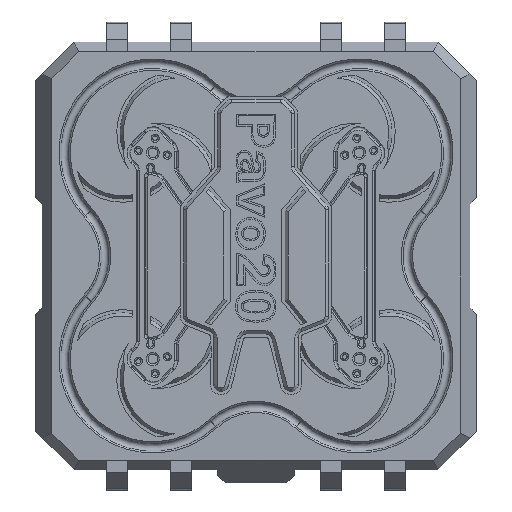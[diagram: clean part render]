
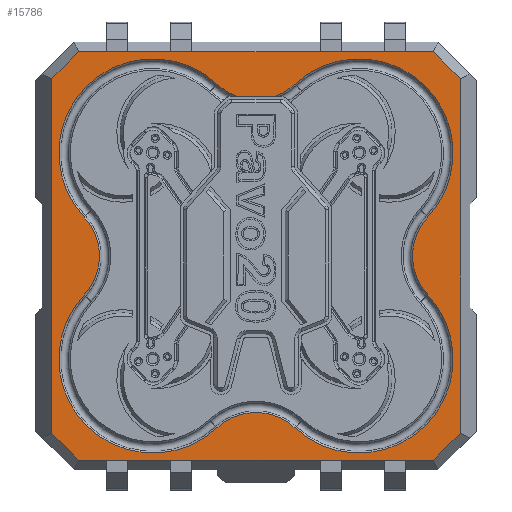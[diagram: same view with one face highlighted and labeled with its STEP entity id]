
A CAD part, top view. The second image highlights one B-rep face of the part: STEP entity #15786.
In plain terms, the highlighted planar face has unit normal (0, 0, 1).
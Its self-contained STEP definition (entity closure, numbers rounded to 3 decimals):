
#325=FACE_BOUND('',#3436,.T.);
#1630=CIRCLE('',#17082,17.699);
#1631=CIRCLE('',#17083,29.);
#1632=CIRCLE('',#17084,17.699);
#1633=CIRCLE('',#17085,29.);
#1634=CIRCLE('',#17086,17.699);
#1635=CIRCLE('',#17087,29.);
#1636=CIRCLE('',#17088,17.699);
#1637=CIRCLE('',#17089,29.);
#1638=CIRCLE('',#17090,17.699);
#2477=FACE_OUTER_BOUND('',#3435,.T.);
#3435=EDGE_LOOP('',(#13756,#13757,#13758,#13759,#13760,#13761,#13762,#13763));
#3436=EDGE_LOOP('',(#13764,#13765,#13766,#13767,#13768,#13769,#13770,#13771,
#13772,#13773));
#4625=LINE('',#27973,#5889);
#4659=LINE('',#28122,#5923);
#4660=LINE('',#28124,#5924);
#4661=LINE('',#28126,#5925);
#4662=LINE('',#28128,#5926);
#4663=LINE('',#28130,#5927);
#4664=LINE('',#28132,#5928);
#4665=LINE('',#28134,#5929);
#4666=LINE('',#28135,#5930);
#5889=VECTOR('',#20457,10.);
#5923=VECTOR('',#20569,10.);
#5924=VECTOR('',#20570,10.);
#5925=VECTOR('',#20571,10.);
#5926=VECTOR('',#20572,10.);
#5927=VECTOR('',#20573,10.);
#5928=VECTOR('',#20574,10.);
#5929=VECTOR('',#20575,10.);
#5930=VECTOR('',#20576,10.);
#7446=VERTEX_POINT('',#27968);
#7447=VERTEX_POINT('',#27972);
#7459=VERTEX_POINT('',#28120);
#7460=VERTEX_POINT('',#28121);
#7461=VERTEX_POINT('',#28123);
#7462=VERTEX_POINT('',#28125);
#7463=VERTEX_POINT('',#28127);
#7464=VERTEX_POINT('',#28129);
#7465=VERTEX_POINT('',#28131);
#7466=VERTEX_POINT('',#28133);
#7467=VERTEX_POINT('',#28136);
#7468=VERTEX_POINT('',#28138);
#7469=VERTEX_POINT('',#28140);
#7470=VERTEX_POINT('',#28142);
#7471=VERTEX_POINT('',#28144);
#7472=VERTEX_POINT('',#28146);
#7473=VERTEX_POINT('',#28148);
#7474=VERTEX_POINT('',#28150);
#9600=EDGE_CURVE('',#7447,#7446,#4625,.T.);
#9645=EDGE_CURVE('',#7459,#7460,#4659,.T.);
#9646=EDGE_CURVE('',#7461,#7459,#4660,.T.);
#9647=EDGE_CURVE('',#7462,#7461,#4661,.T.);
#9648=EDGE_CURVE('',#7463,#7462,#4662,.T.);
#9649=EDGE_CURVE('',#7464,#7463,#4663,.T.);
#9650=EDGE_CURVE('',#7465,#7464,#4664,.T.);
#9651=EDGE_CURVE('',#7466,#7465,#4665,.T.);
#9652=EDGE_CURVE('',#7460,#7466,#4666,.T.);
#9653=EDGE_CURVE('',#7467,#7446,#1630,.T.);
#9654=EDGE_CURVE('',#7468,#7467,#1631,.T.);
#9655=EDGE_CURVE('',#7469,#7468,#1632,.T.);
#9656=EDGE_CURVE('',#7470,#7469,#1633,.T.);
#9657=EDGE_CURVE('',#7471,#7470,#1634,.T.);
#9658=EDGE_CURVE('',#7472,#7471,#1635,.T.);
#9659=EDGE_CURVE('',#7473,#7472,#1636,.T.);
#9660=EDGE_CURVE('',#7474,#7473,#1637,.T.);
#9661=EDGE_CURVE('',#7447,#7474,#1638,.T.);
#13756=ORIENTED_EDGE('',*,*,#9645,.F.);
#13757=ORIENTED_EDGE('',*,*,#9646,.F.);
#13758=ORIENTED_EDGE('',*,*,#9647,.F.);
#13759=ORIENTED_EDGE('',*,*,#9648,.F.);
#13760=ORIENTED_EDGE('',*,*,#9649,.F.);
#13761=ORIENTED_EDGE('',*,*,#9650,.F.);
#13762=ORIENTED_EDGE('',*,*,#9651,.F.);
#13763=ORIENTED_EDGE('',*,*,#9652,.F.);
#13764=ORIENTED_EDGE('',*,*,#9600,.T.);
#13765=ORIENTED_EDGE('',*,*,#9653,.F.);
#13766=ORIENTED_EDGE('',*,*,#9654,.F.);
#13767=ORIENTED_EDGE('',*,*,#9655,.F.);
#13768=ORIENTED_EDGE('',*,*,#9656,.F.);
#13769=ORIENTED_EDGE('',*,*,#9657,.F.);
#13770=ORIENTED_EDGE('',*,*,#9658,.F.);
#13771=ORIENTED_EDGE('',*,*,#9659,.F.);
#13772=ORIENTED_EDGE('',*,*,#9660,.F.);
#13773=ORIENTED_EDGE('',*,*,#9661,.F.);
#14934=PLANE('',#17081);
#15786=ADVANCED_FACE('',(#2477,#325),#14934,.T.);
#17081=AXIS2_PLACEMENT_3D('',#28119,#20567,#20568);
#17082=AXIS2_PLACEMENT_3D('',#28137,#20577,#20578);
#17083=AXIS2_PLACEMENT_3D('',#28139,#20579,#20580);
#17084=AXIS2_PLACEMENT_3D('',#28141,#20581,#20582);
#17085=AXIS2_PLACEMENT_3D('',#28143,#20583,#20584);
#17086=AXIS2_PLACEMENT_3D('',#28145,#20585,#20586);
#17087=AXIS2_PLACEMENT_3D('',#28147,#20587,#20588);
#17088=AXIS2_PLACEMENT_3D('',#28149,#20589,#20590);
#17089=AXIS2_PLACEMENT_3D('',#28151,#20591,#20592);
#17090=AXIS2_PLACEMENT_3D('',#28152,#20593,#20594);
#20457=DIRECTION('',(1.,0.,0.));
#20567=DIRECTION('center_axis',(0.,0.,1.));
#20568=DIRECTION('ref_axis',(1.,0.,0.));
#20569=DIRECTION('',(0.707,0.707,0.));
#20570=DIRECTION('',(0.,1.,0.));
#20571=DIRECTION('',(-0.707,0.707,0.));
#20572=DIRECTION('',(-1.,0.,0.));
#20573=DIRECTION('',(-0.707,-0.707,0.));
#20574=DIRECTION('',(0.,-1.,0.));
#20575=DIRECTION('',(0.707,-0.707,0.));
#20576=DIRECTION('',(1.,0.,0.));
#20577=DIRECTION('center_axis',(0.,0.,-1.));
#20578=DIRECTION('ref_axis',(-0.681,-0.732,0.));
#20579=DIRECTION('center_axis',(0.,0.,1.));
#20580=DIRECTION('ref_axis',(0.732,-0.681,0.));
#20581=DIRECTION('center_axis',(0.,0.,-1.));
#20582=DIRECTION('ref_axis',(-0.732,0.681,0.));
#20583=DIRECTION('center_axis',(0.,0.,1.));
#20584=DIRECTION('ref_axis',(-0.681,-0.732,0.));
#20585=DIRECTION('center_axis',(0.,0.,-1.));
#20586=DIRECTION('ref_axis',(0.681,0.732,0.));
#20587=DIRECTION('center_axis',(0.,0.,1.));
#20588=DIRECTION('ref_axis',(-0.732,0.681,0.));
#20589=DIRECTION('center_axis',(0.,0.,-1.));
#20590=DIRECTION('ref_axis',(0.732,-0.681,0.));
#20591=DIRECTION('center_axis',(0.,0.,1.));
#20592=DIRECTION('ref_axis',(0.681,0.732,0.));
#20593=DIRECTION('center_axis',(0.,0.,-1.));
#20594=DIRECTION('ref_axis',(-0.681,-0.732,0.));
#27968=CARTESIAN_POINT('',(5.853,49.297,44.5));
#27972=CARTESIAN_POINT('',(-5.853,49.297,44.5));
#27973=CARTESIAN_POINT('',(-3.759,49.297,44.5));
#28119=CARTESIAN_POINT('Origin',(0.,0.,
44.5));
#28120=CARTESIAN_POINT('',(-63.,54.757,44.5));
#28121=CARTESIAN_POINT('',(-54.757,63.,44.5));
#28122=CARTESIAN_POINT('',(-56.379,61.379,44.5));
#28123=CARTESIAN_POINT('',(-63.,-54.757,44.5));
#28124=CARTESIAN_POINT('',(-63.,28.,44.5));
#28125=CARTESIAN_POINT('',(-54.757,-63.,44.5));
#28126=CARTESIAN_POINT('',(-61.379,-56.379,44.5));
#28127=CARTESIAN_POINT('',(54.757,-63.,44.5));
#28128=CARTESIAN_POINT('',(-28.,-63.,44.5));
#28129=CARTESIAN_POINT('',(63.,-54.757,44.5));
#28130=CARTESIAN_POINT('',(56.379,-61.379,44.5));
#28131=CARTESIAN_POINT('',(63.,54.757,44.5));
#28132=CARTESIAN_POINT('',(63.,-28.,44.5));
#28133=CARTESIAN_POINT('',(54.757,63.,44.5));
#28134=CARTESIAN_POINT('',(61.379,56.379,44.5));
#28135=CARTESIAN_POINT('',(28.,63.,44.5));
#28136=CARTESIAN_POINT('',(12.06,53.046,44.5));
#28137=CARTESIAN_POINT('Origin',(0.,66.,
44.5));
#28138=CARTESIAN_POINT('',(53.046,12.06,44.5));
#28139=CARTESIAN_POINT('Origin',(31.82,31.82,44.5));
#28140=CARTESIAN_POINT('',(53.046,-12.06,44.5));
#28141=CARTESIAN_POINT('Origin',(66.,0.,
44.5));
#28142=CARTESIAN_POINT('',(12.06,-53.046,44.5));
#28143=CARTESIAN_POINT('Origin',(31.82,-31.82,44.5));
#28144=CARTESIAN_POINT('',(-12.06,-53.046,44.5));
#28145=CARTESIAN_POINT('Origin',(0.,-66.,
44.5));
#28146=CARTESIAN_POINT('',(-53.046,-12.06,44.5));
#28147=CARTESIAN_POINT('Origin',(-31.82,-31.82,44.5));
#28148=CARTESIAN_POINT('',(-53.046,12.06,44.5));
#28149=CARTESIAN_POINT('Origin',(-66.,0.,
44.5));
#28150=CARTESIAN_POINT('',(-12.06,53.046,44.5));
#28151=CARTESIAN_POINT('Origin',(-31.82,31.82,44.5));
#28152=CARTESIAN_POINT('Origin',(0.,66.,
44.5));
